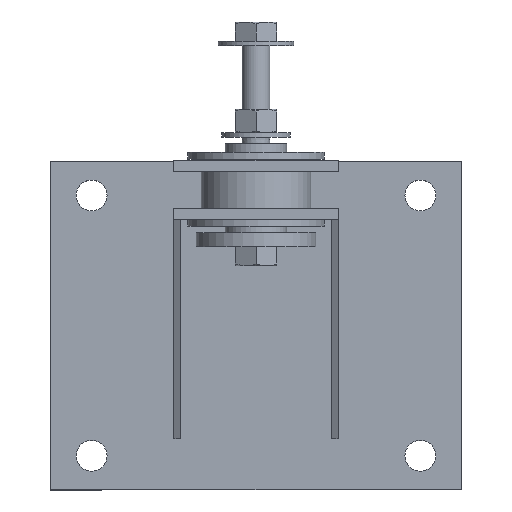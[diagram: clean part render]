
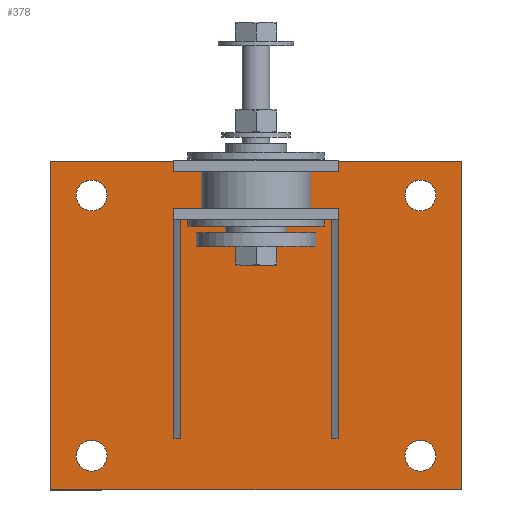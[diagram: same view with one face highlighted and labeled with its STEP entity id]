
A CAD part, top view. The second image highlights one B-rep face of the part: STEP entity #378.
In plain terms, the highlighted planar face has unit normal (0, 0, 1).
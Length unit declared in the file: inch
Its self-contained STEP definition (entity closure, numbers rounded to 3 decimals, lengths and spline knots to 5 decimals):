
#135=CARTESIAN_POINT('',(10.17773,-12.91032,0.375));
#136=VERTEX_POINT('',#135);
#137=CARTESIAN_POINT('',(9.61523,-12.91032,0.375));
#138=DIRECTION('',(0.0,0.0,-1.0));
#139=DIRECTION('',(1.0,0.0,0.0));
#140=AXIS2_PLACEMENT_3D('',#137,#138,#139);
#141=CIRCLE('',#140,0.5625);
#142=EDGE_CURVE('',#136,#136,#141,.T.);
#163=CARTESIAN_POINT('',(0.67773,-12.91032,0.375));
#164=VERTEX_POINT('',#163);
#165=CARTESIAN_POINT('',(0.11523,-12.91032,0.375));
#166=DIRECTION('',(0.0,0.0,-1.0));
#167=DIRECTION('',(1.0,0.0,0.0));
#168=AXIS2_PLACEMENT_3D('',#165,#166,#167);
#169=CIRCLE('',#168,0.5625);
#170=EDGE_CURVE('',#164,#164,#169,.T.);
#191=CARTESIAN_POINT('',(10.17773,-0.91032,0.375));
#192=VERTEX_POINT('',#191);
#193=CARTESIAN_POINT('',(9.61523,-0.91032,0.375));
#194=DIRECTION('',(0.0,0.0,-1.0));
#195=DIRECTION('',(1.0,0.0,0.0));
#196=AXIS2_PLACEMENT_3D('',#193,#194,#195);
#197=CIRCLE('',#196,0.5625);
#198=EDGE_CURVE('',#192,#192,#197,.T.);
#219=CARTESIAN_POINT('',(0.67773,-0.91032,0.375));
#220=VERTEX_POINT('',#219);
#221=CARTESIAN_POINT('',(0.11523,-0.91032,0.375));
#222=DIRECTION('',(0.0,0.0,-1.0));
#223=DIRECTION('',(1.0,0.0,0.0));
#224=AXIS2_PLACEMENT_3D('',#221,#222,#223);
#225=CIRCLE('',#224,0.5625);
#226=EDGE_CURVE('',#220,#220,#225,.T.);
#236=CARTESIAN_POINT('',(10.86523,0.58968,0.375));
#237=VERTEX_POINT('',#236);
#238=CARTESIAN_POINT('',(10.86523,-14.41032,0.375));
#239=VERTEX_POINT('',#238);
#240=CARTESIAN_POINT('',(10.86523,0.58968,0.375));
#241=DIRECTION('',(0.0,-1.0,0.0));
#242=VECTOR('',#241,15.);
#243=LINE('',#240,#242);
#244=EDGE_CURVE('',#237,#239,#243,.T.);
#276=CARTESIAN_POINT('',(-1.13477,-14.41032,0.375));
#277=VERTEX_POINT('',#276);
#278=CARTESIAN_POINT('',(10.86523,-14.41032,0.375));
#279=DIRECTION('',(-1.0,0.0,0.0));
#280=VECTOR('',#279,12.0);
#281=LINE('',#278,#280);
#282=EDGE_CURVE('',#239,#277,#281,.T.);
#307=CARTESIAN_POINT('',(-1.13477,0.58968,0.375));
#308=VERTEX_POINT('',#307);
#309=CARTESIAN_POINT('',(-1.13477,-14.41032,0.375));
#310=DIRECTION('',(0.0,1.0,0.0));
#311=VECTOR('',#310,15.);
#312=LINE('',#309,#311);
#313=EDGE_CURVE('',#277,#308,#312,.T.);
#338=CARTESIAN_POINT('',(-1.13477,0.58968,0.375));
#339=DIRECTION('',(1.0,0.0,0.0));
#340=VECTOR('',#339,12.0);
#341=LINE('',#338,#340);
#342=EDGE_CURVE('',#308,#237,#341,.T.);
#355=CARTESIAN_POINT('',(4.86523,-6.91032,0.375));
#356=DIRECTION('',(0.0,0.0,1.0));
#357=DIRECTION('',(1.0,0.0,0.0));
#358=AXIS2_PLACEMENT_3D('',#355,#356,#357);
#359=PLANE('',#358);
#360=ORIENTED_EDGE('',*,*,#244,.F.);
#361=ORIENTED_EDGE('',*,*,#342,.F.);
#362=ORIENTED_EDGE('',*,*,#313,.F.);
#363=ORIENTED_EDGE('',*,*,#282,.F.);
#364=EDGE_LOOP('',(#360,#361,#362,#363));
#365=FACE_OUTER_BOUND('',#364,.T.);
#366=ORIENTED_EDGE('',*,*,#142,.T.);
#367=EDGE_LOOP('',(#366));
#368=FACE_BOUND('',#367,.T.);
#369=ORIENTED_EDGE('',*,*,#170,.T.);
#370=EDGE_LOOP('',(#369));
#371=FACE_BOUND('',#370,.T.);
#372=ORIENTED_EDGE('',*,*,#198,.T.);
#373=EDGE_LOOP('',(#372));
#374=FACE_BOUND('',#373,.T.);
#375=ORIENTED_EDGE('',*,*,#226,.T.);
#376=EDGE_LOOP('',(#375));
#377=FACE_BOUND('',#376,.T.);
#378=ADVANCED_FACE('',(#365,#368,#371,#374,#377),#359,.T.);
